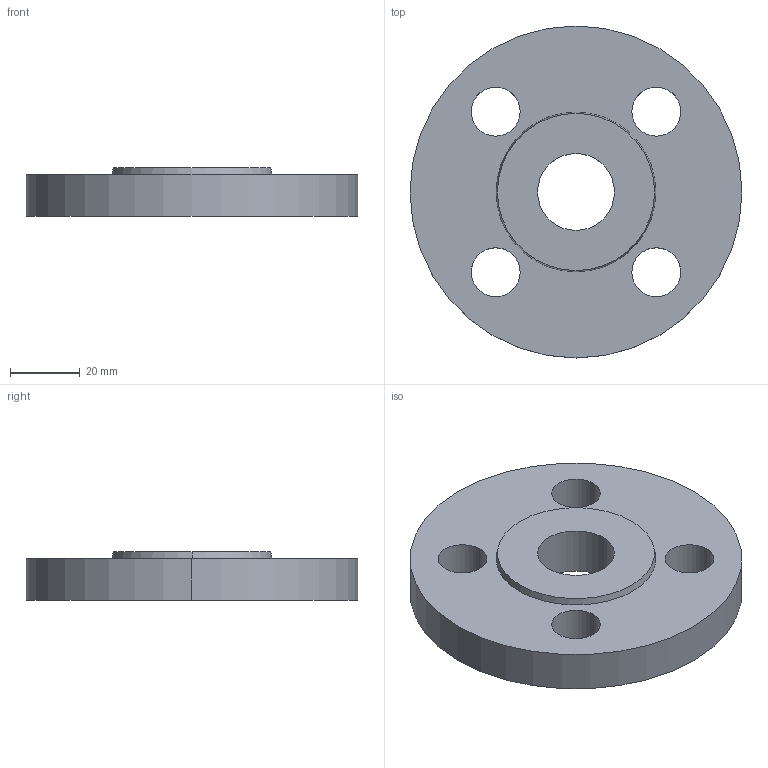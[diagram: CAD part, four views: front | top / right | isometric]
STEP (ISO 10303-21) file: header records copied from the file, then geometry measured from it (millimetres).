
FILE_DESCRIPTION (( 'STEP AP214' ), '1' );
FILE_NAME ('PN40 DN15 Type 01 - Type B Face.STEP', '2018-12-29T15:12:52', ( '' ), ( '' ), 'SwSTEP 2.0', 'SolidWorks 2019', '' );
FILE_SCHEMA (( 'AUTOMOTIVE_DESIGN' ));
Length unit declared in the file: millimetre
Products named in the file (1): PN40 DN15 Type 01 - Type B Face
Bounding box: 95 x 95 x 14 mm (x, y, z)
Volume: 75578.7 mm3; surface area: 19084 mm2
Topology: 1 solids, 1 shells, 17 faces, 42 edges, 28 vertices
Faces by surface type: cylinder 12, plane 3, cone 2
Entity records: 578 total; most frequent: DIRECTION 106, CARTESIAN_POINT 88, ORIENTED_EDGE 84, AXIS2_PLACEMENT_3D 46, EDGE_CURVE 42, CIRCLE 28, EDGE_LOOP 28, VERTEX_POINT 28
